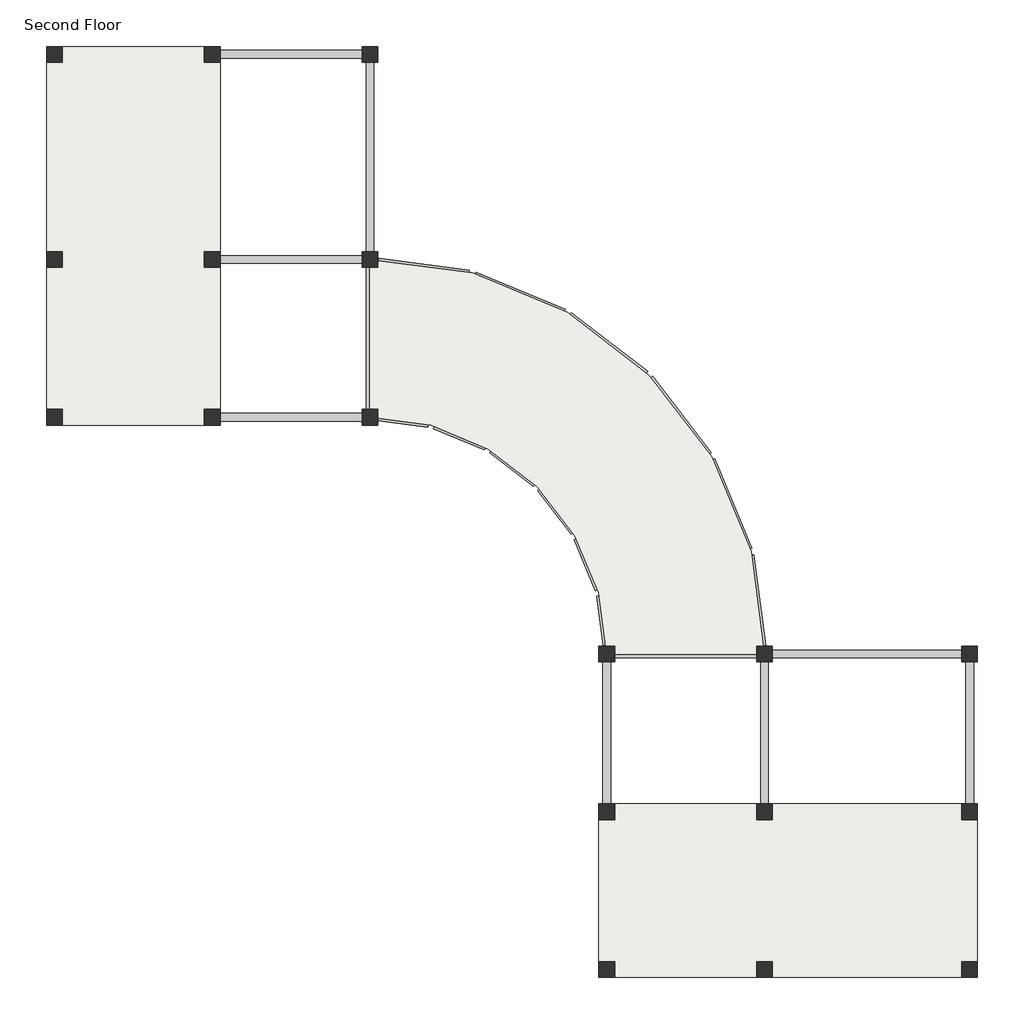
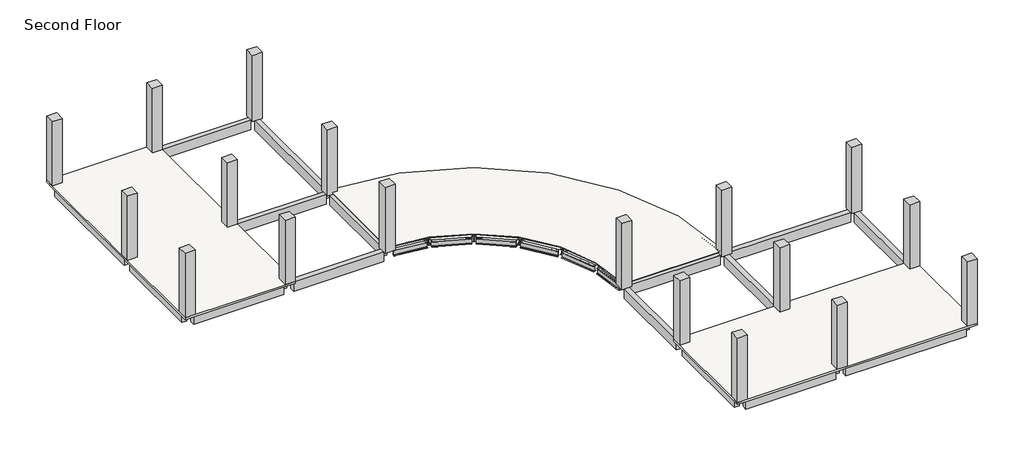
# One storey: 42 beams, 18 columns, 3 slabs.
"""IFC4 building model written with IfcOpenShell, lengths in millimetres."""

from ifc_helpers import new_model, si_unit, frame, origin, place, context, project, spatial, polyline, outline, extrude, faceted_brep, transform, mapped, element, save
from components import w_shapes_w14x30_ed609655, w_shapes_w14x30_53f6a439, w_shapes_w14x30_1f0b7ad3, w_shapes_w14x30_4de1113a, w_shapes_w14x30_27a744b6, w_shapes_w14x30_0a88d063, w_shapes_w14x30_b0bda47b, w_shapes_w14x30_3a7400f0

model = new_model("IFC4")

# Units and contexts
model_context = context("Model", 3, world=origin())
ifc_project = project(units=[si_unit("LENGTHUNIT", "METRE", prefix="MILLI")], contexts=[model_context])

# Site, building, storey
site = spatial("IfcSite", under=ifc_project)
building = spatial("IfcBuilding", under=site)
storey = spatial("IfcBuildingStorey", under=building, Name="Second Floor", Elevation=3048.0)

# Beams
placement = place(None, origin())
element("IfcBeam", 1, ObjectType="Concrete-Rectangular Beam : 12 x 24", at=placement, inside=storey, context=model_context, shape_type="SweptSolid", body=[
    extrude(outline(polyline([(-20530.7327416, 10007.1181497), (-20530.7327416, 9702.3181497), (-26017.1327416, 9702.3181497), (-26017.1327416, 10007.1181497), (-20530.7327416, 10007.1181497)])), frame((0.0, 0.0, 2438.4), z_axis=(0.0, 0.0, 1.0), x_axis=(1.0, 0.0, 0.0)), (0.0, 0.0, 1.0), 609.6),
])
element("IfcBeam", 2, ObjectType="Concrete-Rectangular Beam : 12 x 24", at=placement, inside=storey, context=model_context, shape_type="SweptSolid", body=[
    extrude(outline(polyline([(-26626.7327416, 10007.1181497), (-26626.7327416, 9702.3181497), (-32113.1327416, 9702.3181497), (-32113.1327416, 10007.1181497), (-26626.7327416, 10007.1181497)])), frame((0.0, 0.0, 2438.4), z_axis=(0.0, 0.0, 1.0), x_axis=(1.0, 0.0, 0.0)), (0.0, 0.0, 1.0), 609.6),
])
element("IfcBeam", 3, ObjectType="Concrete-Rectangular Beam : 12 x 24", at=placement, inside=storey, context=model_context, shape_type="SweptSolid", body=[
    extrude(outline(polyline([(-20530.7327416, -4013.6818503), (-20530.7327416, -4318.4818503), (-26017.1327416, -4318.4818503), (-26017.1327416, -4013.6818503), (-20530.7327416, -4013.6818503)])), frame((0.0, 0.0, 2438.4), z_axis=(0.0, 0.0, 1.0), x_axis=(1.0, 0.0, 0.0)), (0.0, 0.0, 1.0), 609.6),
])
element("IfcBeam", 4, ObjectType="Concrete-Rectangular Beam : 12 x 24", at=placement, inside=storey, context=model_context, shape_type="SweptSolid", body=[
    extrude(outline(polyline([(-26626.7327416, -4013.6818503), (-26626.7327416, -4318.4818503), (-32113.1327416, -4318.4818503), (-32113.1327416, -4013.6818503), (-26626.7327416, -4013.6818503)])), frame((0.0, 0.0, 2438.4), z_axis=(0.0, 0.0, 1.0), x_axis=(1.0, 0.0, 0.0)), (0.0, 0.0, 1.0), 609.6),
])
element("IfcBeam", 5, ObjectType="Concrete-Rectangular Beam : 12 x 24", at=placement, inside=storey, context=model_context, shape_type="SweptSolid", body=[
    extrude(outline(polyline([(-20530.7327416, 2082.3181497), (-20530.7327416, 1777.5181497), (-26017.1327416, 1777.5181497), (-26017.1327416, 2082.3181497), (-20530.7327416, 2082.3181497)])), frame((0.0, 0.0, 2438.4), z_axis=(0.0, 0.0, 1.0), x_axis=(1.0, 0.0, 0.0)), (0.0, 0.0, 1.0), 609.6),
])
element("IfcBeam", 6, ObjectType="Concrete-Rectangular Beam : 12 x 24", at=placement, inside=storey, context=model_context, shape_type="SweptSolid", body=[
    extrude(outline(polyline([(-26626.7327416, 2082.3181497), (-26626.7327416, 1777.5181497), (-32113.1327416, 1777.5181497), (-32113.1327416, 2082.3181497), (-26626.7327416, 2082.3181497)])), frame((0.0, 0.0, 2438.4), z_axis=(0.0, 0.0, 1.0), x_axis=(1.0, 0.0, 0.0)), (0.0, 0.0, 1.0), 609.6),
])
element("IfcBeam", 7, ObjectType="Concrete-Rectangular Beam : 12 x 24", at=placement, inside=storey, context=model_context, shape_type="SweptSolid", body=[
    extrude(outline(polyline([(-20073.5327416, -3861.2818503), (-20378.3327416, -3861.2818503), (-20378.3327416, 1625.1181497), (-20073.5327416, 1625.1181497), (-20073.5327416, -3861.2818503)])), frame((0.0, 0.0, 2438.4), z_axis=(0.0, 0.0, 1.0), x_axis=(1.0, 0.0, 0.0)), (0.0, 0.0, 1.0), 609.6),
])
element("IfcBeam", 8, ObjectType="Concrete-Rectangular Beam : 12 x 24", at=placement, inside=storey, context=model_context, shape_type="SweptSolid", body=[
    extrude(outline(polyline([(-20073.5327416, 2234.7181497), (-20378.3327416, 2234.7181497), (-20378.3327416, 9549.9181497), (-20073.5327416, 9549.9181497), (-20073.5327416, 2234.7181497)])), frame((0.0, 0.0, 2438.4), z_axis=(0.0, 0.0, 1.0), x_axis=(1.0, 0.0, 0.0)), (0.0, 0.0, 1.0), 609.6),
])
element("IfcBeam", 9, ObjectType="Concrete-Rectangular Beam : 12 x 24", at=placement, inside=storey, context=model_context, shape_type="SweptSolid", body=[
    extrude(outline(polyline([(-26169.5327416, 2234.7181497), (-26474.3327416, 2234.7181497), (-26474.3327416, 9549.9181497), (-26169.5327416, 9549.9181497), (-26169.5327416, 2234.7181497)])), frame((0.0, 0.0, 2438.4), z_axis=(0.0, 0.0, 1.0), x_axis=(1.0, 0.0, 0.0)), (0.0, 0.0, 1.0), 609.6),
])
element("IfcBeam", 10, ObjectType="Concrete-Rectangular Beam : 12 x 24", at=placement, inside=storey, context=model_context, shape_type="SweptSolid", body=[
    extrude(outline(polyline([(-26169.5327416, -3861.2818503), (-26474.3327416, -3861.2818503), (-26474.3327416, 1625.1181497), (-26169.5327416, 1625.1181497), (-26169.5327416, -3861.2818503)])), frame((0.0, 0.0, 2438.4), z_axis=(0.0, 0.0, 1.0), x_axis=(1.0, 0.0, 0.0)), (0.0, 0.0, 1.0), 609.6),
])
element("IfcBeam", 11, ObjectType="Concrete-Rectangular Beam : 12 x 24", at=placement, inside=storey, context=model_context, shape_type="SweptSolid", body=[
    extrude(outline(polyline([(-32265.5327416, 2234.7181497), (-32570.3327416, 2234.7181497), (-32570.3327416, 9549.9181497), (-32265.5327416, 9549.9181497), (-32265.5327416, 2234.7181497)])), frame((0.0, 0.0, 2438.4), z_axis=(0.0, 0.0, 1.0), x_axis=(1.0, 0.0, 0.0)), (0.0, 0.0, 1.0), 609.6),
])
element("IfcBeam", 12, ObjectType="Concrete-Rectangular Beam : 12 x 24", at=placement, inside=storey, context=model_context, shape_type="SweptSolid", body=[
    extrude(outline(polyline([(-32265.5327416, -3861.2818503), (-32570.3327416, -3861.2818503), (-32570.3327416, 1625.1181497), (-32265.5327416, 1625.1181497), (-32265.5327416, -3861.2818503)])), frame((0.0, 0.0, 2438.4), z_axis=(0.0, 0.0, 1.0), x_axis=(1.0, 0.0, 0.0)), (0.0, 0.0, 1.0), 609.6),
])
element("IfcBeam", 13, ObjectType="Concrete-Rectangular Beam : 12 x 24", at=placement, inside=storey, context=model_context, shape_type="SweptSolid", body=[
    extrude(outline(polyline([(2786.4672584, -13614.8818503), (3091.2672584, -13614.8818503), (3091.2672584, -19101.2818503), (2786.4672584, -19101.2818503), (2786.4672584, -13614.8818503)])), frame((0.0, 0.0, 2438.4), z_axis=(0.0, 0.0, 1.0), x_axis=(1.0, 0.0, 0.0)), (0.0, 0.0, 1.0), 609.6),
])
element("IfcBeam", 14, ObjectType="Concrete-Rectangular Beam : 12 x 24", at=placement, inside=storey, context=model_context, shape_type="SweptSolid", body=[
    extrude(outline(polyline([(2786.4672584, -19710.8818503), (3091.2672584, -19710.8818503), (3091.2672584, -25197.2818503), (2786.4672584, -25197.2818503), (2786.4672584, -19710.8818503)])), frame((0.0, 0.0, 2438.4), z_axis=(0.0, 0.0, 1.0), x_axis=(1.0, 0.0, 0.0)), (0.0, 0.0, 1.0), 609.6),
])
element("IfcBeam", 15, ObjectType="Concrete-Rectangular Beam : 12 x 24", at=placement, inside=storey, context=model_context, shape_type="SweptSolid", body=[
    extrude(outline(polyline([(-11234.3327416, -13614.8818503), (-10929.5327416, -13614.8818503), (-10929.5327416, -19101.2818503), (-11234.3327416, -19101.2818503), (-11234.3327416, -13614.8818503)])), frame((0.0, 0.0, 2438.4), z_axis=(0.0, 0.0, 1.0), x_axis=(1.0, 0.0, 0.0)), (0.0, 0.0, 1.0), 609.6),
])
element("IfcBeam", 16, ObjectType="Concrete-Rectangular Beam : 12 x 24", at=placement, inside=storey, context=model_context, shape_type="SweptSolid", body=[
    extrude(outline(polyline([(-11234.3327416, -19710.8818503), (-10929.5327416, -19710.8818503), (-10929.5327416, -25197.2818503), (-11234.3327416, -25197.2818503), (-11234.3327416, -19710.8818503)])), frame((0.0, 0.0, 2438.4), z_axis=(0.0, 0.0, 1.0), x_axis=(1.0, 0.0, 0.0)), (0.0, 0.0, 1.0), 609.6),
])
element("IfcBeam", 17, ObjectType="Concrete-Rectangular Beam : 12 x 24", at=placement, inside=storey, context=model_context, shape_type="SweptSolid", body=[
    extrude(outline(polyline([(-5138.3327416, -13614.8818503), (-4833.5327416, -13614.8818503), (-4833.5327416, -19101.2818503), (-5138.3327416, -19101.2818503), (-5138.3327416, -13614.8818503)])), frame((0.0, 0.0, 2438.4), z_axis=(0.0, 0.0, 1.0), x_axis=(1.0, 0.0, 0.0)), (0.0, 0.0, 1.0), 609.6),
])
element("IfcBeam", 18, ObjectType="Concrete-Rectangular Beam : 12 x 24", at=placement, inside=storey, context=model_context, shape_type="SweptSolid", body=[
    extrude(outline(polyline([(-5138.3327416, -19710.8818503), (-4833.5327416, -19710.8818503), (-4833.5327416, -25197.2818503), (-5138.3327416, -25197.2818503), (-5138.3327416, -19710.8818503)])), frame((0.0, 0.0, 2438.4), z_axis=(0.0, 0.0, 1.0), x_axis=(1.0, 0.0, 0.0)), (0.0, 0.0, 1.0), 609.6),
])
element("IfcBeam", 19, ObjectType="Concrete-Rectangular Beam : 12 x 24", at=placement, inside=storey, context=model_context, shape_type="SweptSolid", body=[
    extrude(outline(polyline([(-10777.1327416, -13462.4818503), (-10777.1327416, -13157.6818503), (-5290.7327416, -13157.6818503), (-5290.7327416, -13462.4818503), (-10777.1327416, -13462.4818503)])), frame((0.0, 0.0, 2438.4), z_axis=(0.0, 0.0, 1.0), x_axis=(1.0, 0.0, 0.0)), (0.0, 0.0, 1.0), 609.6),
])
element("IfcBeam", 20, ObjectType="Concrete-Rectangular Beam : 12 x 24", at=placement, inside=storey, context=model_context, shape_type="SweptSolid", body=[
    extrude(outline(polyline([(-4681.1327416, -13462.4818503), (-4681.1327416, -13157.6818503), (2634.0672584, -13157.6818503), (2634.0672584, -13462.4818503), (-4681.1327416, -13462.4818503)])), frame((0.0, 0.0, 2438.4), z_axis=(0.0, 0.0, 1.0), x_axis=(1.0, 0.0, 0.0)), (0.0, 0.0, 1.0), 609.6),
])
element("IfcBeam", 21, ObjectType="Concrete-Rectangular Beam : 12 x 24", at=placement, inside=storey, context=model_context, shape_type="SweptSolid", body=[
    extrude(outline(polyline([(-4681.1327416, -19558.4818503), (-4681.1327416, -19253.6818503), (2634.0672584, -19253.6818503), (2634.0672584, -19558.4818503), (-4681.1327416, -19558.4818503)])), frame((0.0, 0.0, 2438.4), z_axis=(0.0, 0.0, 1.0), x_axis=(1.0, 0.0, 0.0)), (0.0, 0.0, 1.0), 609.6),
])
element("IfcBeam", 22, ObjectType="Concrete-Rectangular Beam : 12 x 24", at=placement, inside=storey, context=model_context, shape_type="SweptSolid", body=[
    extrude(outline(polyline([(-10777.1327416, -19558.4818503), (-10777.1327416, -19253.6818503), (-5290.7327416, -19253.6818503), (-5290.7327416, -19558.4818503), (-10777.1327416, -19558.4818503)])), frame((0.0, 0.0, 2438.4), z_axis=(0.0, 0.0, 1.0), x_axis=(1.0, 0.0, 0.0)), (0.0, 0.0, 1.0), 609.6),
])
element("IfcBeam", 23, ObjectType="Concrete-Rectangular Beam : 12 x 24", at=placement, inside=storey, context=model_context, shape_type="SweptSolid", body=[
    extrude(outline(polyline([(-4681.1327416, -25654.4818503), (-4681.1327416, -25349.6818503), (2634.0672584, -25349.6818503), (2634.0672584, -25654.4818503), (-4681.1327416, -25654.4818503)])), frame((0.0, 0.0, 2438.4), z_axis=(0.0, 0.0, 1.0), x_axis=(1.0, 0.0, 0.0)), (0.0, 0.0, 1.0), 609.6),
])
element("IfcBeam", 24, ObjectType="Concrete-Rectangular Beam : 12 x 24", at=placement, inside=storey, context=model_context, shape_type="SweptSolid", body=[
    extrude(outline(polyline([(-10777.1327416, -25654.4818503), (-10777.1327416, -25349.6818503), (-5290.7327416, -25349.6818503), (-5290.7327416, -25654.4818503), (-10777.1327416, -25654.4818503)])), frame((0.0, 0.0, 2438.4), z_axis=(0.0, 0.0, 1.0), x_axis=(1.0, 0.0, 0.0)), (0.0, 0.0, 1.0), 609.6),
])
w_shapes_w14x30_shape = w_shapes_w14x30_ed609655(model_context)
element("IfcBeam", 25, ObjectType="W Shapes : W14X30", at=placement, inside=storey, context=model_context, shape_type="MappedRepresentation", body=[
    mapped(w_shapes_w14x30_shape, transform((-17070.4109437, -1533.5141762, 2745.74), x_axis=(0.25881904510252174, 0.9659258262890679, 0.0), y_axis=(-0.9659258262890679, 0.25881904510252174, 0.0), z_axis=(0.0, 0.0, 1.0))),
])
element("IfcBeam", 26, ObjectType="W Shapes : W14X30", at=placement, inside=storey, context=model_context, shape_type="MappedRepresentation", body=[
    mapped(w_shapes_w14x30_shape, transform((-14129.9327416, -2751.5001274, 2745.74), x_axis=(0.5000000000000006, 0.8660254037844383, 0.0), y_axis=(-0.8660254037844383, 0.5000000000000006, 0.0), z_axis=(0.0, 0.0, 1.0))),
])
element("IfcBeam", 27, ObjectType="W Shapes : W14X30", at=placement, inside=storey, context=model_context, shape_type="MappedRepresentation", body=[
    mapped(w_shapes_w14x30_shape, transform((-11604.8868654, -4689.0359741, 2745.74), x_axis=(0.7071067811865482, 0.7071067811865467, 0.0), y_axis=(-0.7071067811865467, 0.7071067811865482, 0.0), z_axis=(0.0, 0.0, 1.0))),
])
element("IfcBeam", 28, ObjectType="W Shapes : W14X30", at=placement, inside=storey, context=model_context, shape_type="MappedRepresentation", body=[
    mapped(w_shapes_w14x30_shape, transform((-9667.3510187, -7214.0818503, 2745.74), x_axis=(0.8660254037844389, 0.49999999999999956, 0.0), y_axis=(-0.49999999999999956, 0.8660254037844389, 0.0), z_axis=(0.0, 0.0, 1.0))),
])
element("IfcBeam", 29, ObjectType="W Shapes : W14X30", at=placement, inside=storey, context=model_context, shape_type="MappedRepresentation", body=[
    mapped(w_shapes_w14x30_shape, transform((-8449.3650675, -10154.5600525, 2745.74), x_axis=(0.9659258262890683, 0.2588190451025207, 0.0), y_axis=(-0.2588190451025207, 0.9659258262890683, 0.0), z_axis=(0.0, 0.0, 1.0))),
])
w_shapes_w14x30_2_shape = w_shapes_w14x30_53f6a439(model_context)
element("IfcBeam", 30, ObjectType="W Shapes : W14X30", at=placement, inside=storey, context=model_context, shape_type="MappedRepresentation", body=[
    mapped(w_shapes_w14x30_2_shape, transform((-19042.6120674, -4321.8689726, 2745.74), x_axis=(0.991444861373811, -0.13052619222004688, 0.0), y_axis=(0.13052619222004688, 0.991444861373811, 0.0), z_axis=(0.0, 0.0, 1.0))),
])
w_shapes_w14x30_3_shape = w_shapes_w14x30_1f0b7ad3(model_context)
element("IfcBeam", 31, ObjectType="W Shapes : W14X30", at=placement, inside=storey, context=model_context, shape_type="MappedRepresentation", body=[
    mapped(w_shapes_w14x30_3_shape, transform((-16756.6120674, -4934.4008264, 2745.74), x_axis=(0.9238795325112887, -0.38268343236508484, 0.0), y_axis=(0.38268343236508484, 0.9238795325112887, 0.0), z_axis=(0.0, 0.0, 1.0))),
])
element("IfcBeam", 32, ObjectType="W Shapes : W14X30", at=placement, inside=storey, context=model_context, shape_type="MappedRepresentation", body=[
    mapped(w_shapes_w14x30_3_shape, transform((-14707.040538, -6117.7215007, 2745.74), x_axis=(0.7933533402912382, -0.6087614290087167, 0.0), y_axis=(0.6087614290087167, 0.7933533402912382, 0.0), z_axis=(0.0, 0.0, 1.0))),
])
element("IfcBeam", 33, ObjectType="W Shapes : W14X30", at=placement, inside=storey, context=model_context, shape_type="MappedRepresentation", body=[
    mapped(w_shapes_w14x30_3_shape, transform((-13033.5723919, -7791.1896468, 2745.74), x_axis=(0.6087614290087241, -0.7933533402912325, 0.0), y_axis=(0.7933533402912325, 0.6087614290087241, 0.0), z_axis=(0.0, 0.0, 1.0))),
])
element("IfcBeam", 34, ObjectType="W Shapes : W14X30", at=placement, inside=storey, context=model_context, shape_type="MappedRepresentation", body=[
    mapped(w_shapes_w14x30_3_shape, transform((-11850.2517177, -9840.7611761, 2745.74), x_axis=(0.3826834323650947, -0.9238795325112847, 0.0), y_axis=(0.9238795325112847, 0.3826834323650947, 0.0), z_axis=(0.0, 0.0, 1.0))),
])
w_shapes_w14x30_4_shape = w_shapes_w14x30_4de1113a(model_context)
element("IfcBeam", 35, ObjectType="W Shapes : W14X30", at=placement, inside=storey, context=model_context, shape_type="MappedRepresentation", body=[
    mapped(w_shapes_w14x30_4_shape, transform((-18253.7316179, 1670.272946, 2745.74), x_axis=(0.9914448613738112, -0.13052619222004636, 0.0), y_axis=(0.13052619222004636, 0.9914448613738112, 0.0), z_axis=(0.0, 0.0, 1.0))),
])
w_shapes_w14x30_5_shape = w_shapes_w14x30_27a744b6(model_context)
element("IfcBeam", 36, ObjectType="W Shapes : W14X30", at=placement, inside=storey, context=model_context, shape_type="MappedRepresentation", body=[
    mapped(w_shapes_w14x30_5_shape, transform((-14443.7316179, 649.3865228, 2745.74), x_axis=(0.923879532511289, -0.3826834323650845, 0.0), y_axis=(0.3826834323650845, 0.923879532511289, 0.0), z_axis=(0.0, 0.0, 1.0))),
])
element("IfcBeam", 37, ObjectType="W Shapes : W14X30", at=placement, inside=storey, context=model_context, shape_type="MappedRepresentation", body=[
    mapped(w_shapes_w14x30_5_shape, transform((-11027.779069, -1322.8146009, 2745.74), x_axis=(0.7933533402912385, -0.6087614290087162, 0.0), y_axis=(0.6087614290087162, 0.7933533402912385, 0.0), z_axis=(0.0, 0.0, 1.0))),
])
element("IfcBeam", 38, ObjectType="W Shapes : W14X30", at=placement, inside=storey, context=model_context, shape_type="MappedRepresentation", body=[
    mapped(w_shapes_w14x30_5_shape, transform((-8238.6654921, -4111.9281777, 2745.74), x_axis=(0.6087614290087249, -0.7933533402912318, 0.0), y_axis=(0.7933533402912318, 0.6087614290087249, 0.0), z_axis=(0.0, 0.0, 1.0))),
])
element("IfcBeam", 39, ObjectType="W Shapes : W14X30", at=placement, inside=storey, context=model_context, shape_type="MappedRepresentation", body=[
    mapped(w_shapes_w14x30_5_shape, transform((-6266.4643684, -7527.8807267, 2745.74), x_axis=(0.3826834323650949, -0.9238795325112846, 0.0), y_axis=(0.9238795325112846, 0.3826834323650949, 0.0), z_axis=(0.0, 0.0, 1.0))),
])
w_shapes_w14x30_6_shape = w_shapes_w14x30_0a88d063(model_context)
element("IfcBeam", 40, ObjectType="W Shapes : W14X30", at=placement, inside=storey, context=model_context, shape_type="MappedRepresentation", body=[
    mapped(w_shapes_w14x30_6_shape, transform((-8033.9327416, -13310.0818503, 2745.74), x_axis=(1.0, 0.0, 0.0), y_axis=(0.0, 1.0, 0.0), z_axis=(0.0, 0.0, 1.0))),
])
w_shapes_w14x30_7_shape = w_shapes_w14x30_b0bda47b(model_context)
element("IfcBeam", 41, ObjectType="W Shapes : W14X30", at=placement, inside=storey, context=model_context, shape_type="MappedRepresentation", body=[
    mapped(w_shapes_w14x30_7_shape, transform((-11237.7198638, -12126.7611761, 2745.74), x_axis=(0.13052619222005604, -0.9914448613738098, 0.0), y_axis=(0.9914448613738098, 0.13052619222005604, 0.0), z_axis=(0.0, 0.0, 1.0))),
])
w_shapes_w14x30_8_shape = w_shapes_w14x30_3a7400f0(model_context)
element("IfcBeam", 42, ObjectType="W Shapes : W14X30", at=placement, inside=storey, context=model_context, shape_type="MappedRepresentation", body=[
    mapped(w_shapes_w14x30_8_shape, transform((-5245.5779453, -11337.8807267, 2745.74), x_axis=(0.13052619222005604, -0.9914448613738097, 0.0), y_axis=(0.9914448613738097, 0.13052619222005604, 0.0), z_axis=(0.0, 0.0, 1.0))),
])

# Columns
element("IfcColumn", 43, ObjectType="Concrete-Rectangular-Column : 24 x 24", at=placement, inside=storey, context=model_context, shape_type="Brep", body=[
    faceted_brep([(-20530.7327416, -4470.8818503, 3048.0), (-20530.7327416, -3861.2818503, 3048.0), (-19921.1327416, -3861.2818503, 3048.0), (-19921.1327416, -4470.8818503, 3048.0), (-20530.7327416, -4470.8818503, 7315.2), (-20530.7327416, -3861.2818503, 7315.2), (-19921.1327416, -3861.2818503, 7315.2), (-19921.1327416, -3861.2818503, 3168.65), (-20225.9327416, -3861.2818503, 3168.65), (-20225.9327416, -3861.2818503, 3130.55), (-19921.1327416, -3861.2818503, 3130.55), (-19921.1327416, -4206.2095316, 3130.55), (-19921.1327416, -4206.2095316, 3168.65), (-19921.1327416, -4470.8818503, 7315.2), (-20225.9327416, -4166.0818503, 3130.55), (-20225.9327416, -4166.0818503, 3168.65)], [[[0, 1, 2, 3]], [[1, 0, 4, 5]], [[2, 1, 5, 6, 7, 8, 9, 10]], [[3, 2, 10, 11, 12, 7, 6, 13]], [[0, 3, 13, 4]], [[5, 4, 13, 6]], [[9, 14, 11, 10]], [[12, 15, 8, 7]], [[14, 15, 12, 11]], [[15, 14, 9, 8]]]),
])
element("IfcColumn", 44, ObjectType="Concrete-Rectangular-Column : 24 x 24", at=placement, inside=storey, context=model_context, shape_type="Brep", body=[
    faceted_brep([(-20530.7327416, 1625.1181497, 3048.0), (-20530.7327416, 2234.7181497, 3048.0), (-19921.1327416, 2234.7181497, 3048.0), (-19921.1327416, 1625.1181497, 3048.0), (-20530.7327416, 1625.1181497, 7315.2), (-20530.7327416, 2234.7181497, 7315.2), (-19921.1327416, 2234.7181497, 7315.2), (-19921.1327416, 1625.1181497, 7315.2), (-19921.1327416, 1625.1181497, 3168.65), (-19921.1327416, 1889.7904684, 3168.65), (-19921.1327416, 1889.7904684, 3130.55), (-19921.1327416, 1625.1181497, 3130.55), (-20225.9327416, 1625.1181497, 3130.55), (-20225.9327416, 1625.1181497, 3168.65), (-20225.9327416, 1929.9181497, 3130.55), (-20225.9327416, 1929.9181497, 3168.65)], [[[0, 1, 2, 3]], [[1, 0, 4, 5]], [[2, 1, 5, 6]], [[3, 2, 6, 7, 8, 9, 10, 11]], [[0, 3, 11, 12, 13, 8, 7, 4]], [[5, 4, 7, 6]], [[14, 12, 11, 10]], [[15, 9, 8, 13]], [[15, 14, 10, 9]], [[14, 15, 13, 12]]]),
])
element("IfcColumn", 45, ObjectType="Concrete-Rectangular-Column : 24 x 24", at=placement, inside=storey, context=model_context, shape_type="SweptSolid", body=[
    extrude(outline(polyline([(-20530.7327416, 9549.9181497), (-20530.7327416, 10159.5181497), (-19921.1327416, 10159.5181497), (-19921.1327416, 9549.9181497), (-20530.7327416, 9549.9181497)])), frame((0.0, 0.0, 3048.0), z_axis=(0.0, 0.0, 1.0), x_axis=(1.0, 0.0, 0.0)), (0.0, 0.0, 1.0), 4267.2),
])
element("IfcColumn", 46, ObjectType="Concrete-Rectangular-Column : 24 x 24", at=placement, inside=storey, context=model_context, shape_type="SweptSolid", body=[
    extrude(outline(polyline([(-26626.7327416, -4470.8818503), (-26626.7327416, -3861.2818503), (-26017.1327416, -3861.2818503), (-26017.1327416, -4470.8818503), (-26626.7327416, -4470.8818503)])), frame((0.0, 0.0, 3168.65), z_axis=(0.0, 0.0, 1.0), x_axis=(1.0, 0.0, 0.0)), (0.0, 0.0, 1.0), 4146.55),
])
element("IfcColumn", 47, ObjectType="Concrete-Rectangular-Column : 24 x 24", at=placement, inside=storey, context=model_context, shape_type="SweptSolid", body=[
    extrude(outline(polyline([(-26626.7327416, 1625.1181497), (-26626.7327416, 2234.7181497), (-26017.1327416, 2234.7181497), (-26017.1327416, 1625.1181497), (-26626.7327416, 1625.1181497)])), frame((0.0, 0.0, 3168.65), z_axis=(0.0, 0.0, 1.0), x_axis=(1.0, 0.0, 0.0)), (0.0, 0.0, 1.0), 4146.55),
])
element("IfcColumn", 48, ObjectType="Concrete-Rectangular-Column : 24 x 24", at=placement, inside=storey, context=model_context, shape_type="SweptSolid", body=[
    extrude(outline(polyline([(-26626.7327416, 9549.9181497), (-26626.7327416, 10159.5181497), (-26017.1327416, 10159.5181497), (-26017.1327416, 9549.9181497), (-26626.7327416, 9549.9181497)])), frame((0.0, 0.0, 3168.65), z_axis=(0.0, 0.0, 1.0), x_axis=(1.0, 0.0, 0.0)), (0.0, 0.0, 1.0), 4146.55),
])
element("IfcColumn", 49, ObjectType="Concrete-Rectangular-Column : 24 x 24", at=placement, inside=storey, context=model_context, shape_type="SweptSolid", body=[
    extrude(outline(polyline([(-32722.7327416, -4470.8818503), (-32722.7327416, -3861.2818503), (-32113.1327416, -3861.2818503), (-32113.1327416, -4470.8818503), (-32722.7327416, -4470.8818503)])), frame((0.0, 0.0, 3168.65), z_axis=(0.0, 0.0, 1.0), x_axis=(1.0, 0.0, 0.0)), (0.0, 0.0, 1.0), 4146.55),
])
element("IfcColumn", 50, ObjectType="Concrete-Rectangular-Column : 24 x 24", at=placement, inside=storey, context=model_context, shape_type="SweptSolid", body=[
    extrude(outline(polyline([(-32722.7327416, 1625.1181497), (-32722.7327416, 2234.7181497), (-32113.1327416, 2234.7181497), (-32113.1327416, 1625.1181497), (-32722.7327416, 1625.1181497)])), frame((0.0, 0.0, 3168.65), z_axis=(0.0, 0.0, 1.0), x_axis=(1.0, 0.0, 0.0)), (0.0, 0.0, 1.0), 4146.55),
])
element("IfcColumn", 51, ObjectType="Concrete-Rectangular-Column : 24 x 24", at=placement, inside=storey, context=model_context, shape_type="SweptSolid", body=[
    extrude(outline(polyline([(-32722.7327416, 9549.9181497), (-32722.7327416, 10159.5181497), (-32113.1327416, 10159.5181497), (-32113.1327416, 9549.9181497), (-32722.7327416, 9549.9181497)])), frame((0.0, 0.0, 3168.65), z_axis=(0.0, 0.0, 1.0), x_axis=(1.0, 0.0, 0.0)), (0.0, 0.0, 1.0), 4146.55),
])
element("IfcColumn", 52, ObjectType="Concrete-Rectangular-Column : 24 x 24", at=placement, inside=storey, context=model_context, shape_type="Brep", body=[
    faceted_brep([(-10777.1327416, -13614.8818503, 3048.0), (-11386.7327416, -13614.8818503, 3048.0), (-11386.7327416, -13005.2818503, 3048.0), (-10777.1327416, -13005.2818503, 3048.0), (-10777.1327416, -13614.8818503, 7315.2), (-11386.7327416, -13614.8818503, 7315.2), (-10777.1327416, -13005.2818503, 3130.55), (-10777.1327416, -13310.0818503, 3130.55), (-10777.1327416, -13310.0818503, 3168.65), (-10777.1327416, -13005.2818503, 3168.65), (-10777.1327416, -13005.2818503, 7315.2), (-11386.7327416, -13005.2818503, 7315.2), (-11122.0604229, -13005.2818503, 3168.65), (-11122.0604229, -13005.2818503, 3130.55), (-11081.9327416, -13310.0818503, 3130.55), (-11081.9327416, -13310.0818503, 3168.65)], [[[0, 1, 2, 3]], [[1, 0, 4, 5]], [[0, 3, 6, 7, 8, 9, 10, 4]], [[3, 2, 11, 10, 9, 12, 13, 6]], [[2, 1, 5, 11]], [[5, 4, 10, 11]], [[13, 14, 7, 6]], [[8, 15, 12, 9]], [[14, 15, 8, 7]], [[15, 14, 13, 12]]]),
])
element("IfcColumn", 53, ObjectType="Concrete-Rectangular-Column : 24 x 24", at=placement, inside=storey, context=model_context, shape_type="Brep", body=[
    faceted_brep([(-4681.1327416, -13614.8818503, 3048.0), (-5290.7327416, -13614.8818503, 3048.0), (-5290.7327416, -13005.2818503, 3048.0), (-4681.1327416, -13005.2818503, 3048.0), (-4681.1327416, -13614.8818503, 7315.2), (-5290.7327416, -13614.8818503, 7315.2), (-4681.1327416, -13005.2818503, 7315.2), (-5290.7327416, -13005.2818503, 3130.55), (-5026.0604229, -13005.2818503, 3130.55), (-5026.0604229, -13005.2818503, 3168.65), (-5290.7327416, -13005.2818503, 3168.65), (-5290.7327416, -13005.2818503, 7315.2), (-5290.7327416, -13310.0818503, 3168.65), (-5290.7327416, -13310.0818503, 3130.55), (-4985.9327416, -13310.0818503, 3130.55), (-4985.9327416, -13310.0818503, 3168.65)], [[[0, 1, 2, 3]], [[1, 0, 4, 5]], [[0, 3, 6, 4]], [[3, 2, 7, 8, 9, 10, 11, 6]], [[2, 1, 5, 11, 10, 12, 13, 7]], [[5, 4, 6, 11]], [[13, 14, 8, 7]], [[9, 15, 12, 10]], [[14, 15, 9, 8]], [[15, 14, 13, 12]]]),
])
element("IfcColumn", 54, ObjectType="Concrete-Rectangular-Column : 24 x 24", at=placement, inside=storey, context=model_context, shape_type="SweptSolid", body=[
    extrude(outline(polyline([(2634.0672584, -13614.8818503), (2634.0672584, -13005.2818503), (3243.6672584, -13005.2818503), (3243.6672584, -13614.8818503), (2634.0672584, -13614.8818503)])), frame((0.0, 0.0, 3048.0), z_axis=(0.0, 0.0, 1.0), x_axis=(1.0, 0.0, 0.0)), (0.0, 0.0, 1.0), 4267.2),
])
element("IfcColumn", 55, ObjectType="Concrete-Rectangular-Column : 24 x 24", at=placement, inside=storey, context=model_context, shape_type="SweptSolid", body=[
    extrude(outline(polyline([(-10777.1327416, -19710.8818503), (-11386.7327416, -19710.8818503), (-11386.7327416, -19101.2818503), (-10777.1327416, -19101.2818503), (-10777.1327416, -19710.8818503)])), frame((0.0, 0.0, 3168.65), z_axis=(0.0, 0.0, 1.0), x_axis=(1.0, 0.0, 0.0)), (0.0, 0.0, 1.0), 4146.55),
])
element("IfcColumn", 56, ObjectType="Concrete-Rectangular-Column : 24 x 24", at=placement, inside=storey, context=model_context, shape_type="SweptSolid", body=[
    extrude(outline(polyline([(-4681.1327416, -19710.8818503), (-5290.7327416, -19710.8818503), (-5290.7327416, -19101.2818503), (-4681.1327416, -19101.2818503), (-4681.1327416, -19710.8818503)])), frame((0.0, 0.0, 3168.65), z_axis=(0.0, 0.0, 1.0), x_axis=(1.0, 0.0, 0.0)), (0.0, 0.0, 1.0), 4146.55),
])
element("IfcColumn", 57, ObjectType="Concrete-Rectangular-Column : 24 x 24", at=placement, inside=storey, context=model_context, shape_type="SweptSolid", body=[
    extrude(outline(polyline([(3243.6672584, -19710.8818503), (2634.0672584, -19710.8818503), (2634.0672584, -19101.2818503), (3243.6672584, -19101.2818503), (3243.6672584, -19710.8818503)])), frame((0.0, 0.0, 3168.65), z_axis=(0.0, 0.0, 1.0), x_axis=(1.0, 0.0, 0.0)), (0.0, 0.0, 1.0), 4146.55),
])
element("IfcColumn", 58, ObjectType="Concrete-Rectangular-Column : 24 x 24", at=placement, inside=storey, context=model_context, shape_type="SweptSolid", body=[
    extrude(outline(polyline([(-10777.1327416, -25806.8818503), (-11386.7327416, -25806.8818503), (-11386.7327416, -25197.2818503), (-10777.1327416, -25197.2818503), (-10777.1327416, -25806.8818503)])), frame((0.0, 0.0, 3168.65), z_axis=(0.0, 0.0, 1.0), x_axis=(1.0, 0.0, 0.0)), (0.0, 0.0, 1.0), 4146.55),
])
element("IfcColumn", 59, ObjectType="Concrete-Rectangular-Column : 24 x 24", at=placement, inside=storey, context=model_context, shape_type="SweptSolid", body=[
    extrude(outline(polyline([(-4681.1327416, -25806.8818503), (-5290.7327416, -25806.8818503), (-5290.7327416, -25197.2818503), (-4681.1327416, -25197.2818503), (-4681.1327416, -25806.8818503)])), frame((0.0, 0.0, 3168.65), z_axis=(0.0, 0.0, 1.0), x_axis=(1.0, 0.0, 0.0)), (0.0, 0.0, 1.0), 4146.55),
])
element("IfcColumn", 60, ObjectType="Concrete-Rectangular-Column : 24 x 24", at=placement, inside=storey, context=model_context, shape_type="SweptSolid", body=[
    extrude(outline(polyline([(3243.6672584, -25806.8818503), (2634.0672584, -25806.8818503), (2634.0672584, -25197.2818503), (3243.6672584, -25197.2818503), (3243.6672584, -25806.8818503)])), frame((0.0, 0.0, 3168.65), z_axis=(0.0, 0.0, 1.0), x_axis=(1.0, 0.0, 0.0)), (0.0, 0.0, 1.0), 4146.55),
])

# Slabs
element("IfcSlab", 61, ObjectType="1 1/2\" Metal Roof Deck", at=placement, inside=storey, context=model_context, shape_type="Brep", body=[
    faceted_brep([(-20225.9327416, 1929.9181497, 3130.55), (-19921.1327416, 1889.7904684, 3130.55), (-16281.5304942, 1410.6277423, 3130.55), (-12605.9327416, -111.8546967, 3130.55), (-9449.6253963, -2533.7745051, 3130.55), (-7027.7055879, -5690.0818503, 3130.55), (-5505.223149, -9365.679603, 3130.55), (-5026.0604229, -13005.2818503, 3130.55), (-4985.9327416, -13310.0818503, 3130.55), (-5290.7327416, -13310.0818503, 3130.55), (-10777.1327416, -13310.0818503, 3130.55), (-11081.9327416, -13310.0818503, 3130.55), (-11122.0604229, -13005.2818503, 3130.55), (-11393.506986, -10943.4405019, 3130.55), (-12306.9964494, -8738.0818503, 3130.55), (-13760.1483344, -6844.2974432, 3130.55), (-15653.9327416, -5391.1455581, 3130.55), (-17859.2913932, -4477.6560948, 3130.55), (-19921.1327416, -4206.2095316, 3130.55), (-20225.9327416, -4166.0818503, 3130.55), (-20225.9327416, -3861.2818503, 3130.55), (-20225.9327416, 1625.1181497, 3130.55), (-20225.9327416, 1929.9181497, 3168.65), (-20225.9327416, 1625.1181497, 3168.65), (-20225.9327416, -3861.2818503, 3168.65), (-20225.9327416, -4166.0818503, 3168.65), (-19921.1327416, -4206.2095316, 3168.65), (-17859.2913932, -4477.6560948, 3168.65), (-15653.9327416, -5391.1455581, 3168.65), (-13760.1483344, -6844.2974432, 3168.65), (-12306.9964494, -8738.0818503, 3168.65), (-11393.506986, -10943.4405019, 3168.65), (-11122.0604229, -13005.2818503, 3168.65), (-11081.9327416, -13310.0818503, 3168.65), (-10777.1327416, -13310.0818503, 3168.65), (-5290.7327416, -13310.0818503, 3168.65), (-4985.9327416, -13310.0818503, 3168.65), (-5026.0604229, -13005.2818503, 3168.65), (-5505.223149, -9365.679603, 3168.65), (-7027.7055879, -5690.0818503, 3168.65), (-9449.6253963, -2533.7745051, 3168.65), (-12605.9327416, -111.8546967, 3168.65), (-16281.5304942, 1410.6277423, 3168.65), (-19921.1327416, 1889.7904684, 3168.65)], [[[0, 1, 2, 3, 4, 5, 6, 7, 8, 9, 10, 11, 12, 13, 14, 15, 16, 17, 18, 19, 20, 21]], [[22, 23, 24, 25, 26, 27, 28, 29, 30, 31, 32, 33, 34, 35, 36, 37, 38, 39, 40, 41, 42, 43]], [[2, 1, 0, 22, 43, 42]], [[3, 2, 42, 41]], [[4, 3, 41, 40]], [[5, 4, 40, 39]], [[6, 5, 39, 38]], [[8, 7, 6, 38, 37, 36]], [[11, 10, 9, 8, 36, 35, 34, 33]], [[13, 12, 11, 33, 32, 31]], [[14, 13, 31, 30]], [[15, 14, 30, 29]], [[16, 15, 29, 28]], [[17, 16, 28, 27]], [[19, 18, 17, 27, 26, 25]], [[0, 21, 20, 19, 25, 24, 23, 22]]]),
])
element("IfcSlab", 62, ObjectType="LW Concrete on Metal Deck", at=placement, inside=storey, context=model_context, shape_type="Brep", body=[
    faceted_brep([(-26017.1327416, 10159.5181497, 3048.0), (-26017.1327416, 9549.9181497, 3048.0), (-26017.1327416, 2234.7181497, 3048.0), (-26017.1327416, 1625.1181497, 3048.0), (-26017.1327416, -3861.2818503, 3048.0), (-26017.1327416, -4470.8818503, 3048.0), (-26626.7327416, -4470.8818503, 3048.0), (-32113.1327416, -4470.8818503, 3048.0), (-32722.7327416, -4470.8818503, 3048.0), (-32722.7327416, -3861.2818503, 3048.0), (-32722.7327416, 1625.1181497, 3048.0), (-32722.7327416, 2234.7181497, 3048.0), (-32722.7327416, 9549.9181497, 3048.0), (-32722.7327416, 10159.5181497, 3048.0), (-32113.1327416, 10159.5181497, 3048.0), (-26626.7327416, 10159.5181497, 3048.0), (-26017.1327416, 10159.5181497, 3168.65), (-26626.7327416, 10159.5181497, 3168.65), (-32113.1327416, 10159.5181497, 3168.65), (-32722.7327416, 10159.5181497, 3168.65), (-32722.7327416, 9549.9181497, 3168.65), (-32722.7327416, 2234.7181497, 3168.65), (-32722.7327416, 1625.1181497, 3168.65), (-32722.7327416, -3861.2818503, 3168.65), (-32722.7327416, -4470.8818503, 3168.65), (-32113.1327416, -4470.8818503, 3168.65), (-26626.7327416, -4470.8818503, 3168.65), (-26017.1327416, -4470.8818503, 3168.65), (-26017.1327416, -3861.2818503, 3168.65), (-26017.1327416, 1625.1181497, 3168.65), (-26017.1327416, 2234.7181497, 3168.65), (-26017.1327416, 9549.9181497, 3168.65)], [[[0, 1, 2, 3, 4, 5, 6, 7, 8, 9, 10, 11, 12, 13, 14, 15]], [[16, 17, 18, 19, 20, 21, 22, 23, 24, 25, 26, 27, 28, 29, 30, 31]], [[5, 4, 3, 2, 1, 0, 16, 31, 30, 29, 28, 27]], [[8, 7, 6, 5, 27, 26, 25, 24]], [[13, 12, 11, 10, 9, 8, 24, 23, 22, 21, 20, 19]], [[0, 15, 14, 13, 19, 18, 17, 16]]]),
])
element("IfcSlab", 63, ObjectType="LW Concrete on Metal Deck", at=placement, inside=storey, context=model_context, shape_type="Brep", body=[
    faceted_brep([(3243.6672584, -19101.2818503, 3048.0), (3243.6672584, -19710.8818503, 3048.0), (3243.6672584, -25197.2818503, 3048.0), (3243.6672584, -25806.8818503, 3048.0), (2634.0672584, -25806.8818503, 3048.0), (-4681.1327416, -25806.8818503, 3048.0), (-5290.7327416, -25806.8818503, 3048.0), (-10777.1327416, -25806.8818503, 3048.0), (-11386.7327416, -25806.8818503, 3048.0), (-11386.7327416, -25197.2818503, 3048.0), (-11386.7327416, -19710.8818503, 3048.0), (-11386.7327416, -19101.2818503, 3048.0), (-10777.1327416, -19101.2818503, 3048.0), (-5290.7327416, -19101.2818503, 3048.0), (-4681.1327416, -19101.2818503, 3048.0), (2634.0672584, -19101.2818503, 3048.0), (3243.6672584, -19101.2818503, 3168.65), (2634.0672584, -19101.2818503, 3168.65), (-4681.1327416, -19101.2818503, 3168.65), (-5290.7327416, -19101.2818503, 3168.65), (-10777.1327416, -19101.2818503, 3168.65), (-11386.7327416, -19101.2818503, 3168.65), (-11386.7327416, -19710.8818503, 3168.65), (-11386.7327416, -25197.2818503, 3168.65), (-11386.7327416, -25806.8818503, 3168.65), (-10777.1327416, -25806.8818503, 3168.65), (-5290.7327416, -25806.8818503, 3168.65), (-4681.1327416, -25806.8818503, 3168.65), (2634.0672584, -25806.8818503, 3168.65), (3243.6672584, -25806.8818503, 3168.65), (3243.6672584, -25197.2818503, 3168.65), (3243.6672584, -19710.8818503, 3168.65)], [[[0, 1, 2, 3, 4, 5, 6, 7, 8, 9, 10, 11, 12, 13, 14, 15]], [[16, 17, 18, 19, 20, 21, 22, 23, 24, 25, 26, 27, 28, 29, 30, 31]], [[0, 15, 14, 13, 12, 11, 21, 20, 19, 18, 17, 16]], [[11, 10, 9, 8, 24, 23, 22, 21]], [[8, 7, 6, 5, 4, 3, 29, 28, 27, 26, 25, 24]], [[3, 2, 1, 0, 16, 31, 30, 29]]]),
])

save(model, "model.ifc")
